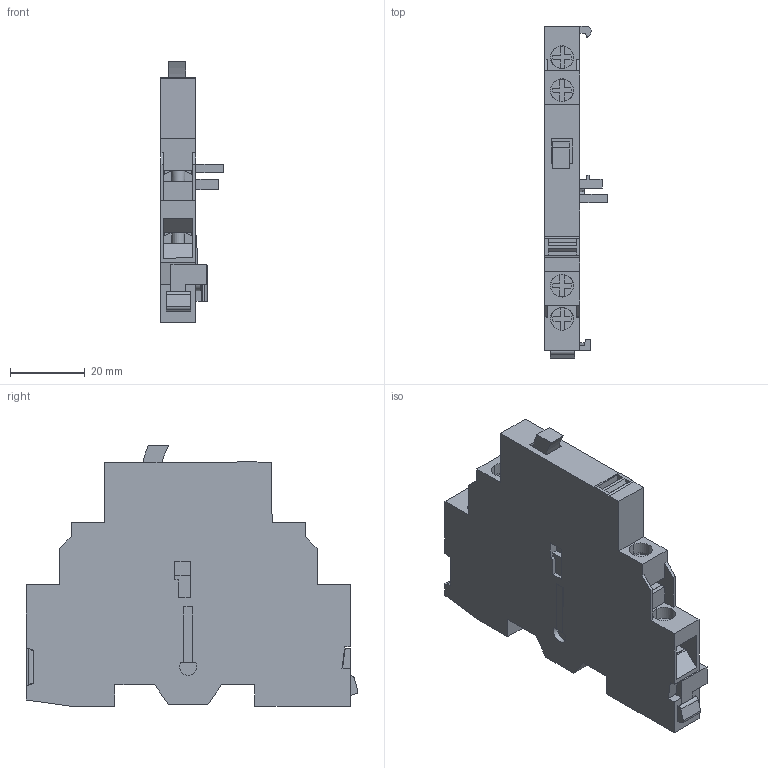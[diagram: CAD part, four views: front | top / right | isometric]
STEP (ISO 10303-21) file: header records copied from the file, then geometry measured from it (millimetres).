
FILE_DESCRIPTION(('Open CASCADE Model'),'2;1');
FILE_NAME('Open CASCADE Shape Model','2023-03-29T06:45:37',('Author'),( 'Open CASCADE'),'Open CASCADE STEP processor 7.4','Open CASCADE 7.4' ,'Unknown');
FILE_SCHEMA(('AUTOMOTIVE_DESIGN { 1 0 10303 214 1 1 1 1 }'));
Products named in the file (1): gvamxx-3d
Bounding box: 16.7 x 89.04 x 69.9 mm (x, y, z)
Volume: 79864.6 mm3; surface area: 33371.9 mm2
Topology: 4 solids, 162 shells, 906 faces, 3120 edges, 2374 vertices
Faces by surface type: plane 738, cylinder 104, extrusion 64
Entity records: 75811 total; most frequent: CARTESIAN_POINT 21363, DIRECTION 9245, VECTOR 6990, LINE 6926, ORIENTED_EDGE 5308, PCURVE 5308, DEFINITIONAL_REPRESENTATION 5308, EDGE_CURVE 3120
